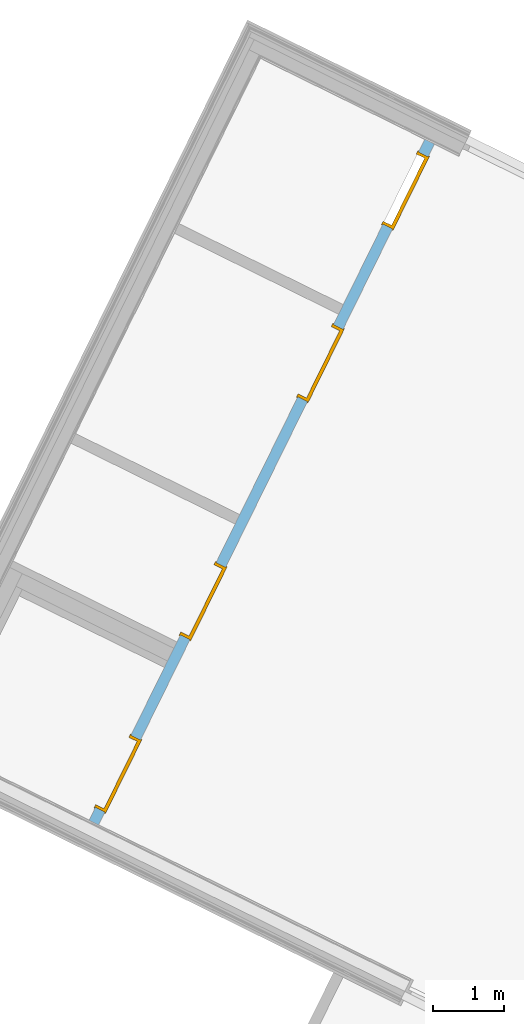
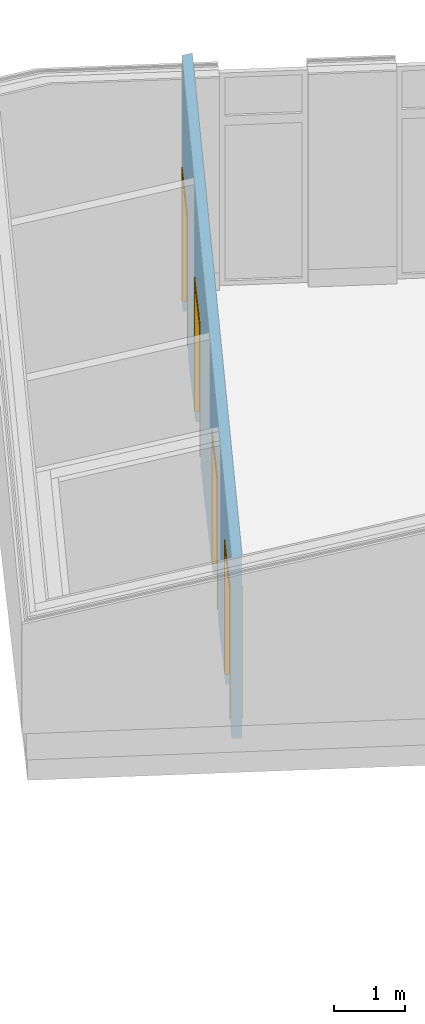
# One storey, part 17 of 23: 4 doors, 4 openings, plus 1 element that does not belong to this part.
"""IFC4 building model written with IfcOpenShell, lengths in metres."""

from ifc_helpers import new_model, entity, si_unit, converted_unit, derived_unit, frame, frame_2d, origin, origin_with_axes, place, context, subcontext, project, spatial, polyline, rectangle, outline, extrude, clip, halfspace, faceted_brep, source, transform, mapped, material, type_object, element, fill, save


model = new_model("IFC4")

# Units and contexts
model_context = context("Model", 3, precision=1e-05, world=origin())
body_context = subcontext(model_context, "Body", "Model", "MODEL_VIEW")
ifc_project = project(units=[si_unit("LENGTHUNIT", "METRE"), si_unit("AREAUNIT", "SQUARE_METRE"), si_unit("VOLUMEUNIT", "CUBIC_METRE"), si_unit("MASSUNIT", "GRAM", prefix="KILO"), converted_unit("PLANEANGLEUNIT", "DEGREE", entity("IfcPlaneAngleMeasure", 0.0174532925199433), si_unit("PLANEANGLEUNIT", "RADIAN"), dimensions=[0, 0, 0, 0, 0, 0, 0]), derived_unit("THERMALTRANSMITTANCEUNIT", [(si_unit("POWERUNIT", "WATT"), 1), (si_unit("THERMODYNAMICTEMPERATUREUNIT", "KELVIN"), -1), (si_unit("LENGTHUNIT", "METRE"), -2)]), derived_unit("VOLUMETRICFLOWRATEUNIT", [(si_unit("LENGTHUNIT", "METRE"), 3), (converted_unit("TIMEUNIT", "hour", entity("IfcTimeMeasure", 3600.0), si_unit("TIMEUNIT", "SECOND"), dimensions=[0, 0, 1, 0, 0, 0, 0]), -1), (si_unit("LENGTHUNIT", "METRE"), -1)])], contexts=[model_context])

# Site, building, storey
site_placement = place(None, origin())
site = spatial("IfcSite", under=ifc_project, at=site_placement, Name="Psychiatrie Neubau Wunstorf", CompositionType="ELEMENT")
building_placement = place(site_placement, origin())
building = spatial("IfcBuilding", under=site, at=building_placement, Name="Neubau H1 Sozialzentrum", CompositionType="ELEMENT")
storey_placement = place(building_placement, frame((0.0, 0.0, 0.7)))
storey = spatial("IfcBuildingStorey", under=building, at=storey_placement, Name="H1 Ebene 0", CompositionType="ELEMENT", Elevation=0.7)

# Wall, openings, doors
ifc_material_1 = material(Name="WI-LB")
wall_placement = place(storey_placement, frame((-23.9635187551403, 30.5655565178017, -0.2), z_axis=(0.0, 0.0, 1.0), x_axis=(0.44222268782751, 0.896905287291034, 0.0)))
wall = element("IfcWall", 1, at=wall_placement, inside=storey, material=ifc_material_1, context=body_context, shape_type="Clipping", body=[
    clip(extrude(rectangle(XDim=10.6918526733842, YDim=0.149967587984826, at=frame_2d((5.34592633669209, 0.074983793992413), x_axis=(1.0, 0.0))), origin_with_axes(), (0.0, 0.0, 1.0), 4.29485537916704), halfspace(frame((5.34592633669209, 0.0749837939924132, 3.69632046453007), z_axis=(0.105378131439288, -0.222899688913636, -0.96912908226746), x_axis=(0.994140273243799, 0.0, 0.108097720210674)), True)),
])
opening_1_placement = place(wall_placement, frame((10.4918526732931, 0.149967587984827, 0.0), z_axis=(-1.21292169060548e-14, -1.0, 0.0), x_axis=(0.0, 0.0, 1.0)))
opening_1 = element("IfcOpeningElement", 2, at=opening_1_placement, cuts=wall, Name="Türöffnung", ObjectType="Opening", context=body_context, shape_type="SweptSolid", body=[
    extrude(outline(polyline([(2.46, 1.135), (2.46, 0.0), (0.0, 0.0), (0.0, 1.135), (2.46, 1.135)])), origin_with_axes(), (0.0, 0.0, 1.0), 0.149967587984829),
])
opening_2_placement = place(wall_placement, frame((0.199999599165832, 0.0, 0.0), z_axis=(2.46374718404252e-15, 1.0, 0.0), x_axis=(0.0, 0.0, 1.0)))
opening_2 = element("IfcOpeningElement", 3, at=opening_2_placement, cuts=wall, Name="Türöffnung", ObjectType="Opening", context=body_context, shape_type="SweptSolid", body=[
    extrude(outline(polyline([(2.46, 1.135), (2.46, 0.0), (0.0, 0.0), (0.0, 1.135), (2.46, 1.135)])), origin_with_axes(), (0.0, 0.0, 1.0), 0.149967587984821),
])
opening_3_placement = place(wall_placement, frame((7.78245267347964, 0.149967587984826, 0.0), z_axis=(-1.21292169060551e-14, -1.0, 0.0), x_axis=(0.0, 0.0, 1.0)))
opening_3 = element("IfcOpeningElement", 4, at=opening_3_placement, cuts=wall, Name="Türöffnung", ObjectType="Opening", context=body_context, shape_type="SweptSolid", body=[
    extrude(outline(polyline([(2.46, 1.13500110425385), (2.46, 0.0), (0.0, 0.0), (0.0, 1.13500110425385), (2.46, 1.13500110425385)])), origin_with_axes(), (0.0, 0.0, 1.0), 0.149967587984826),
])
opening_4_placement = place(wall_placement, frame((4.04439945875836, 0.149967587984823, 0.0), z_axis=(1.81938253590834e-14, -1.0, 0.0), x_axis=(0.0, 0.0, 1.0)))
opening_4 = element("IfcOpeningElement", 5, at=opening_4_placement, cuts=wall, Name="Türöffnung", ObjectType="Opening", context=body_context, shape_type="SweptSolid", body=[
    extrude(outline(polyline([(2.46, 1.13500030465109), (2.46, 0.0), (0.0, 0.0), (0.0, 1.13500030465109), (2.46, 1.13500030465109)])), origin_with_axes(), (0.0, 0.0, 1.0), 0.14996758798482),
])
ifc_material_2 = material(Name="TI-1F-UZ-ZK")
door_type_1 = type_object("IfcDoorType", Name="SMT", OperationType="SINGLE_SWING_RIGHT", ParameterTakesPrecedence=False, PredefinedType="DOOR")
shared_shape_1 = source(origin_with_axes(), body_context, "Body", "Brep", [
    faceted_brep([(0.0, -0.0150403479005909, 2.46), (0.0400000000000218, -0.0150403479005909, 2.46), (0.0400000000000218, -0.0150403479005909, 0.2), (0.0, -0.0150403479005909, 0.2), (0.0, 0.164967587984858, 0.2), (0.0400000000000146, 0.164967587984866, 0.2), (0.0400000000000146, 0.164967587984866, 2.46), (0.0, 0.164967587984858, 2.46)], [[[0, 1, 2, 3]], [[4, 5, 6, 7]], [[3, 4, 7, 0]], [[2, 5, 4, 3]], [[1, 6, 5, 2]], [[0, 7, 6, 1]]], orient=[[False], [False], [False], [False], [False], [False]]),
    faceted_brep([(0.0, -0.0150403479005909, 2.475), (0.0, -0.0150403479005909, 0.2), (-0.0149999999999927, -0.0150403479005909, 0.2), (-0.0149999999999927, -0.0150403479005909, 2.475), (0.0, -4.03479005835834e-05, 0.2), (0.0, -4.03479005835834e-05, 2.475), (-0.0149999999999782, -4.03479005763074e-05, 2.475), (-0.0149999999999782, -4.03479005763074e-05, 0.2)], [[[0, 1, 2, 3]], [[4, 5, 6, 7]], [[1, 0, 5, 4]], [[2, 1, 4, 7]], [[3, 2, 7, 6]], [[0, 3, 6, 5]]], orient=[[False], [False], [False], [False], [False], [False]]),
    faceted_brep([(0.0, 0.149967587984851, 2.475), (0.0, 0.149967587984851, 0.2), (-0.0149999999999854, 0.149967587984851, 0.2), (-0.0149999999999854, 0.149967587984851, 2.475), (0.0, 0.164967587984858, 0.2), (0.0, 0.164967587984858, 2.475), (-0.0149999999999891, 0.164967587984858, 2.475), (-0.0149999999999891, 0.164967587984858, 0.2)], [[[0, 1, 2, 3]], [[4, 5, 6, 7]], [[1, 0, 5, 4]], [[2, 1, 4, 7]], [[3, 2, 7, 6]], [[0, 3, 6, 5]]], orient=[[False], [False], [False], [False], [False], [False]]),
    faceted_brep([(1.09499999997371, -0.0150403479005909, 2.46), (1.13499999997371, -0.0150403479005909, 2.46), (1.13499999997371, -0.0150403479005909, 0.2), (1.09499999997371, -0.0150403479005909, 0.2), (1.0949999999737, 0.164967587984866, 0.2), (1.1349999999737, 0.164967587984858, 0.2), (1.1349999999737, 0.164967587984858, 2.46), (1.0949999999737, 0.164967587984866, 2.46)], [[[0, 1, 2, 3]], [[4, 5, 6, 7]], [[3, 4, 7, 0]], [[2, 5, 4, 3]], [[1, 6, 5, 2]], [[0, 7, 6, 1]]], orient=[[False], [False], [False], [False], [False], [False]]),
    faceted_brep([(1.13499999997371, -0.0150403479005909, 2.475), (1.14999999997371, -0.0150403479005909, 2.475), (1.14999999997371, -0.0150403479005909, 0.2), (1.13499999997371, -0.0150403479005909, 0.2), (1.13499999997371, -4.03479005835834e-05, 0.2), (1.1499999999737, -4.03479005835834e-05, 0.2), (1.1499999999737, -4.03479005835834e-05, 2.475), (1.13499999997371, -4.03479005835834e-05, 2.475)], [[[0, 1, 2, 3]], [[4, 5, 6, 7]], [[3, 4, 7, 0]], [[2, 5, 4, 3]], [[1, 6, 5, 2]], [[0, 7, 6, 1]]], orient=[[False], [False], [False], [False], [False], [False]]),
    faceted_brep([(1.1349999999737, 0.149967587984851, 2.475), (1.1499999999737, 0.149967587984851, 2.475), (1.1499999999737, 0.149967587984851, 0.2), (1.1349999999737, 0.149967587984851, 0.2), (1.1349999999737, 0.164967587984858, 0.2), (1.14999999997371, 0.164967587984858, 0.2), (1.14999999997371, 0.164967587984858, 2.475), (1.1349999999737, 0.164967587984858, 2.475)], [[[0, 1, 2, 3]], [[4, 5, 6, 7]], [[3, 4, 7, 0]], [[2, 5, 4, 3]], [[1, 6, 5, 2]], [[0, 7, 6, 1]]], orient=[[False], [False], [False], [False], [False], [False]]),
    faceted_brep([(0.0400000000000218, -0.0150403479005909, 2.46), (1.09499999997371, -0.0150403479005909, 2.46), (1.09499999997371, -0.0150403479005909, 2.42), (0.0400000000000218, -0.0150403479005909, 2.42), (0.0400000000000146, 0.164967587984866, 2.42), (1.0949999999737, 0.164967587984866, 2.42), (1.0949999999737, 0.164967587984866, 2.46), (0.0400000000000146, 0.164967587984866, 2.46)], [[[0, 1, 2, 3]], [[4, 5, 6, 7]], [[3, 4, 7, 0]], [[2, 5, 4, 3]], [[1, 6, 5, 2]], [[0, 7, 6, 1]]], orient=[[False], [False], [False], [False], [False], [False]]),
    faceted_brep([(0.0, -0.0150403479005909, 2.475), (1.13499999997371, -0.0150403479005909, 2.475), (1.13499999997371, -0.0150403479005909, 2.46), (0.0, -0.0150403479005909, 2.46), (0.0, -4.03479005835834e-05, 2.46), (1.13499999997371, -4.03479005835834e-05, 2.46), (1.13499999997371, -4.03479005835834e-05, 2.475), (0.0, -4.03479005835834e-05, 2.475)], [[[0, 1, 2, 3]], [[4, 5, 6, 7]], [[3, 4, 7, 0]], [[2, 5, 4, 3]], [[1, 6, 5, 2]], [[0, 7, 6, 1]]], orient=[[False], [False], [False], [False], [False], [False]]),
    faceted_brep([(0.0, 0.149967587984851, 2.475), (1.1349999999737, 0.149967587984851, 2.475), (1.1349999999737, 0.149967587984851, 2.46), (0.0, 0.149967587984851, 2.46), (0.0, 0.164967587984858, 2.46), (1.1349999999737, 0.164967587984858, 2.46), (1.1349999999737, 0.164967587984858, 2.475), (0.0, 0.164967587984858, 2.475)], [[[0, 1, 2, 3]], [[4, 5, 6, 7]], [[3, 4, 7, 0]], [[2, 5, 4, 3]], [[1, 6, 5, 2]], [[0, 7, 6, 1]]], orient=[[False], [False], [False], [False], [False], [False]]),
    faceted_brep([(0.0250000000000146, 0.115967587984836, 2.435), (1.1099999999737, 0.115967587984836, 2.435), (1.1099999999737, 0.115967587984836, 0.2), (0.0250000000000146, 0.115967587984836, 0.2), (0.0250000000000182, 0.165967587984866, 0.2), (1.10999999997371, 0.165967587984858, 0.2), (1.10999999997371, 0.165967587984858, 2.435), (0.0250000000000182, 0.165967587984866, 2.435)], [[[0, 1, 2, 3]], [[4, 5, 6, 7]], [[3, 4, 7, 0]], [[2, 5, 4, 3]], [[1, 6, 5, 2]], [[0, 7, 6, 1]]], orient=[[False], [False], [False], [False], [False], [False]]),
])
door_1_placement = place(opening_1_placement, frame((0.0, 0.0, 0.0), z_axis=(1.0, 0.0, 0.0), x_axis=(0.0, 1.0, 1.36557432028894e-14)))
door_1 = element("IfcDoor", 6, at=door_1_placement, inside=storey, type_object=door_type_1, material=ifc_material_2, Name="SMT", OverallHeight=2.46, OverallWidth=1.135, context=body_context, shape_type="MappedRepresentation", body=[
    mapped(shared_shape_1, transform((0.0, 0.0, 0.0), x_axis=(1.0, 0.0, 0.0), y_axis=(0.0, 1.0, 0.0), z_axis=(0.0, 0.0, 1.0), scale=1.0)),
])
fill(opening_1, door_1)
ifc_material_3 = material(Name="TI-1F-UZ-ZK")
door_type_2 = type_object("IfcDoorType", Name="SMT", OperationType="SINGLE_SWING_RIGHT", ParameterTakesPrecedence=False, PredefinedType="DOOR")
shared_shape_2 = source(origin_with_axes(), body_context, "Body", "Brep", [
    faceted_brep([(1.13499999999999, -0.0150324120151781, 2.46), (1.13499999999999, -0.0150324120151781, 0.2), (1.09499999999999, -0.0150324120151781, 0.2), (1.09499999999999, -0.0150324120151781, 2.46), (1.13499999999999, 0.164967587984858, 0.2), (1.13499999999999, 0.164967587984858, 2.46), (1.09499999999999, 0.164967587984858, 2.46), (1.09499999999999, 0.164967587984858, 0.2)], [[[0, 1, 2, 3]], [[4, 5, 6, 7]], [[1, 0, 5, 4]], [[2, 1, 4, 7]], [[3, 2, 7, 6]], [[0, 3, 6, 5]]], orient=[[False], [False], [False], [False], [False], [False]]),
    faceted_brep([(1.13499999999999, -0.0150324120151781, 2.475), (1.14999999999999, -0.0150324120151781, 2.475), (1.14999999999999, -0.0150324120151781, 0.2), (1.13499999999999, -0.0150324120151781, 0.2), (1.13499999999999, -3.24120151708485e-05, 0.2), (1.14999999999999, -3.24120151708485e-05, 0.2), (1.14999999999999, -3.24120151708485e-05, 2.475), (1.13499999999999, -3.24120151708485e-05, 2.475)], [[[0, 1, 2, 3]], [[4, 5, 6, 7]], [[3, 4, 7, 0]], [[2, 5, 4, 3]], [[1, 6, 5, 2]], [[0, 7, 6, 1]]], orient=[[False], [False], [False], [False], [False], [False]]),
    faceted_brep([(1.13499999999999, 0.149967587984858, 2.475), (1.14999999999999, 0.149967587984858, 2.475), (1.14999999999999, 0.149967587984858, 0.2), (1.13499999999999, 0.149967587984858, 0.2), (1.13499999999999, 0.164967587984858, 0.2), (1.14999999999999, 0.164967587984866, 0.2), (1.14999999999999, 0.164967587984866, 2.475), (1.13499999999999, 0.164967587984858, 2.475)], [[[0, 1, 2, 3]], [[4, 5, 6, 7]], [[3, 4, 7, 0]], [[2, 5, 4, 3]], [[1, 6, 5, 2]], [[0, 7, 6, 1]]], orient=[[False], [False], [False], [False], [False], [False]]),
    faceted_brep([(0.0399999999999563, -0.0150324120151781, 2.46), (0.0399999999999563, -0.0150324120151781, 0.2), (0.0, -0.0150324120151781, 0.2), (0.0, -0.0150324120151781, 2.46), (0.03999999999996, 0.164967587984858, 0.2), (0.03999999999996, 0.164967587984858, 2.46), (0.0, 0.164967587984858, 2.46), (0.0, 0.164967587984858, 0.2)], [[[0, 1, 2, 3]], [[4, 5, 6, 7]], [[1, 0, 5, 4]], [[2, 1, 4, 7]], [[3, 2, 7, 6]], [[0, 3, 6, 5]]], orient=[[False], [False], [False], [False], [False], [False]]),
    faceted_brep([(0.0, -0.0150324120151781, 2.475), (0.0, -0.0150324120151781, 0.2), (-0.0150000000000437, -0.0150324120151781, 0.2), (-0.0150000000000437, -0.0150324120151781, 2.475), (0.0, -3.24120151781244e-05, 0.2), (0.0, -3.24120151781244e-05, 2.475), (-0.01500000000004, -3.24120151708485e-05, 2.475), (-0.01500000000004, -3.24120151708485e-05, 0.2)], [[[0, 1, 2, 3]], [[4, 5, 6, 7]], [[1, 0, 5, 4]], [[2, 1, 4, 7]], [[3, 2, 7, 6]], [[0, 3, 6, 5]]], orient=[[False], [False], [False], [False], [False], [False]]),
    faceted_brep([(0.0, 0.149967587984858, 2.475), (0.0, 0.149967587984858, 0.2), (-0.0150000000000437, 0.149967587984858, 0.2), (-0.0150000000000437, 0.149967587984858, 2.475), (0.0, 0.164967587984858, 0.2), (0.0, 0.164967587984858, 2.475), (-0.0150000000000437, 0.164967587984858, 2.475), (-0.0150000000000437, 0.164967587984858, 0.2)], [[[0, 1, 2, 3]], [[4, 5, 6, 7]], [[1, 0, 5, 4]], [[2, 1, 4, 7]], [[3, 2, 7, 6]], [[0, 3, 6, 5]]], orient=[[False], [False], [False], [False], [False], [False]]),
    faceted_brep([(1.09499999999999, -0.0150324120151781, 2.46), (1.09499999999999, -0.0150324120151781, 2.42), (0.0399999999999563, -0.0150324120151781, 2.42), (0.0399999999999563, -0.0150324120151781, 2.46), (1.09499999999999, 0.164967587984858, 2.42), (1.09499999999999, 0.164967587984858, 2.46), (0.03999999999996, 0.164967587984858, 2.46), (0.03999999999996, 0.164967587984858, 2.42)], [[[0, 1, 2, 3]], [[4, 5, 6, 7]], [[1, 0, 5, 4]], [[2, 1, 4, 7]], [[3, 2, 7, 6]], [[0, 3, 6, 5]]], orient=[[False], [False], [False], [False], [False], [False]]),
    faceted_brep([(1.13499999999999, -0.0150324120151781, 2.475), (1.13499999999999, -0.0150324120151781, 2.46), (0.0, -0.0150324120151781, 2.46), (0.0, -0.0150324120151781, 2.475), (1.13499999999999, -3.24120151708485e-05, 2.46), (1.13499999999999, -3.24120151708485e-05, 2.475), (0.0, -3.24120151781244e-05, 2.475), (0.0, -3.24120151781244e-05, 2.46)], [[[0, 1, 2, 3]], [[4, 5, 6, 7]], [[1, 0, 5, 4]], [[2, 1, 4, 7]], [[3, 2, 7, 6]], [[0, 3, 6, 5]]], orient=[[False], [False], [False], [False], [False], [False]]),
    faceted_brep([(1.13499999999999, 0.149967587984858, 2.475), (1.13499999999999, 0.149967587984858, 2.46), (0.0, 0.149967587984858, 2.46), (0.0, 0.149967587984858, 2.475), (1.13499999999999, 0.164967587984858, 2.46), (1.13499999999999, 0.164967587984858, 2.475), (0.0, 0.164967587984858, 2.475), (0.0, 0.164967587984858, 2.46)], [[[0, 1, 2, 3]], [[4, 5, 6, 7]], [[1, 0, 5, 4]], [[2, 1, 4, 7]], [[3, 2, 7, 6]], [[0, 3, 6, 5]]], orient=[[False], [False], [False], [False], [False], [False]]),
    faceted_brep([(1.10999999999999, 0.115967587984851, 2.435), (1.10999999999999, 0.115967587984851, 0.2), (0.0249999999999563, 0.115967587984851, 0.2), (0.0249999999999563, 0.115967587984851, 2.435), (1.10999999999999, 0.165967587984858, 0.2), (1.10999999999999, 0.165967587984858, 2.435), (0.0249999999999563, 0.165967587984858, 2.435), (0.0249999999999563, 0.165967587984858, 0.2)], [[[0, 1, 2, 3]], [[4, 5, 6, 7]], [[1, 0, 5, 4]], [[2, 1, 4, 7]], [[3, 2, 7, 6]], [[0, 3, 6, 5]]], orient=[[False], [False], [False], [False], [False], [False]]),
])
door_2_placement = place(opening_2_placement, frame((0.0, 1.135, 0.149967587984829), z_axis=(1.0, 0.0, 0.0), x_axis=(0.0, -1.0, -1.11022302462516e-15)))
door_2 = element("IfcDoor", 7, at=door_2_placement, inside=storey, type_object=door_type_2, material=ifc_material_3, Name="SMT", OverallHeight=2.46, OverallWidth=1.135, context=body_context, shape_type="MappedRepresentation", body=[
    mapped(shared_shape_2, transform((0.0, 0.0, 0.0), x_axis=(1.0, 0.0, 0.0), y_axis=(0.0, 1.0, 0.0), z_axis=(0.0, 0.0, 1.0), scale=1.0)),
])
fill(opening_2, door_2)
ifc_material_4 = material(Name="TI-1F-UZ-ZK")
door_type_3 = type_object("IfcDoorType", Name="SMT", OperationType="SINGLE_SWING_RIGHT", ParameterTakesPrecedence=False, PredefinedType="DOOR")
shared_shape_3 = source(origin_with_axes(), body_context, "Body", "Brep", [
    faceted_brep([(0.0, -0.0150403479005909, 2.46), (0.0400000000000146, -0.0150403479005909, 2.46), (0.0400000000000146, -0.0150403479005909, 0.2), (0.0, -0.0150403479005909, 0.2), (0.0, 0.164967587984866, 0.2), (0.0400000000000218, 0.164967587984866, 0.2), (0.0400000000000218, 0.164967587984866, 2.46), (0.0, 0.164967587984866, 2.46)], [[[0, 1, 2, 3]], [[4, 5, 6, 7]], [[3, 4, 7, 0]], [[2, 5, 4, 3]], [[1, 6, 5, 2]], [[0, 7, 6, 1]]], orient=[[False], [False], [False], [False], [False], [False]]),
    faceted_brep([(0.0, -0.0150403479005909, 2.475), (0.0, -0.0150403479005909, 0.2), (-0.0149999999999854, -0.0150403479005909, 0.2), (-0.0149999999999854, -0.0150403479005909, 2.475), (0.0, -4.03479005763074e-05, 0.2), (0.0, -4.03479005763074e-05, 2.475), (-0.0149999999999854, -4.03479005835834e-05, 2.475), (-0.0149999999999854, -4.03479005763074e-05, 0.2)], [[[0, 1, 2, 3]], [[4, 5, 6, 7]], [[1, 0, 5, 4]], [[2, 1, 4, 7]], [[3, 2, 7, 6]], [[0, 3, 6, 5]]], orient=[[False], [False], [False], [False], [False], [False]]),
    faceted_brep([(0.0, 0.149967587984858, 2.475), (0.0, 0.149967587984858, 0.2), (-0.0149999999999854, 0.149967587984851, 0.2), (-0.0149999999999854, 0.149967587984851, 2.475), (0.0, 0.164967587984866, 0.2), (0.0, 0.164967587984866, 2.475), (-0.0149999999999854, 0.164967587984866, 2.475), (-0.0149999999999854, 0.164967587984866, 0.2)], [[[0, 1, 2, 3]], [[4, 5, 6, 7]], [[1, 0, 5, 4]], [[2, 1, 4, 7]], [[3, 2, 7, 6]], [[0, 3, 6, 5]]], orient=[[False], [False], [False], [False], [False], [False]]),
    faceted_brep([(1.0949999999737, -0.0150403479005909, 2.46), (1.13499999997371, -0.0150403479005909, 2.46), (1.13499999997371, -0.0150403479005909, 0.2), (1.0949999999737, -0.0150403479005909, 0.2), (1.0949999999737, 0.164967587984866, 0.2), (1.13499999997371, 0.164967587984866, 0.2), (1.13499999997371, 0.164967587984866, 2.46), (1.0949999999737, 0.164967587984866, 2.46)], [[[0, 1, 2, 3]], [[4, 5, 6, 7]], [[3, 4, 7, 0]], [[2, 5, 4, 3]], [[1, 6, 5, 2]], [[0, 7, 6, 1]]], orient=[[False], [False], [False], [False], [False], [False]]),
    faceted_brep([(1.13499999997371, -0.0150403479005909, 2.475), (1.1499999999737, -0.0150403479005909, 2.475), (1.1499999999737, -0.0150403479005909, 0.2), (1.13499999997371, -0.0150403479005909, 0.2), (1.1349999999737, -4.03479005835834e-05, 0.2), (1.1499999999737, -4.03479005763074e-05, 0.2), (1.1499999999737, -4.03479005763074e-05, 2.475), (1.1349999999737, -4.03479005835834e-05, 2.475)], [[[0, 1, 2, 3]], [[4, 5, 6, 7]], [[3, 4, 7, 0]], [[2, 5, 4, 3]], [[1, 6, 5, 2]], [[0, 7, 6, 1]]], orient=[[False], [False], [False], [False], [False], [False]]),
    faceted_brep([(1.13499999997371, 0.149967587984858, 2.475), (1.1499999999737, 0.149967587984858, 2.475), (1.1499999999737, 0.149967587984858, 0.2), (1.13499999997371, 0.149967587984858, 0.2), (1.13499999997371, 0.164967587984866, 0.2), (1.14999999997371, 0.164967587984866, 0.2), (1.14999999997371, 0.164967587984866, 2.475), (1.13499999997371, 0.164967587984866, 2.475)], [[[0, 1, 2, 3]], [[4, 5, 6, 7]], [[3, 4, 7, 0]], [[2, 5, 4, 3]], [[1, 6, 5, 2]], [[0, 7, 6, 1]]], orient=[[False], [False], [False], [False], [False], [False]]),
    faceted_brep([(0.0400000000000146, -0.0150403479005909, 2.46), (1.0949999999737, -0.0150403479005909, 2.46), (1.0949999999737, -0.0150403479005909, 2.42), (0.0400000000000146, -0.0150403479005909, 2.42), (0.0400000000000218, 0.164967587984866, 2.42), (1.0949999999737, 0.164967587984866, 2.42), (1.0949999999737, 0.164967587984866, 2.46), (0.0400000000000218, 0.164967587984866, 2.46)], [[[0, 1, 2, 3]], [[4, 5, 6, 7]], [[3, 4, 7, 0]], [[2, 5, 4, 3]], [[1, 6, 5, 2]], [[0, 7, 6, 1]]], orient=[[False], [False], [False], [False], [False], [False]]),
    faceted_brep([(0.0, -0.0150403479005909, 2.475), (1.13499999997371, -0.0150403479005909, 2.475), (1.13499999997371, -0.0150403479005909, 2.46), (0.0, -0.0150403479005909, 2.46), (0.0, -4.03479005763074e-05, 2.46), (1.1349999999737, -4.03479005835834e-05, 2.46), (1.1349999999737, -4.03479005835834e-05, 2.475), (0.0, -4.03479005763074e-05, 2.475)], [[[0, 1, 2, 3]], [[4, 5, 6, 7]], [[3, 4, 7, 0]], [[2, 5, 4, 3]], [[1, 6, 5, 2]], [[0, 7, 6, 1]]], orient=[[False], [False], [False], [False], [False], [False]]),
    faceted_brep([(0.0, 0.149967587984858, 2.475), (1.13499999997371, 0.149967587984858, 2.475), (1.13499999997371, 0.149967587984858, 2.46), (0.0, 0.149967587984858, 2.46), (0.0, 0.164967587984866, 2.46), (1.13499999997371, 0.164967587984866, 2.46), (1.13499999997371, 0.164967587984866, 2.475), (0.0, 0.164967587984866, 2.475)], [[[0, 1, 2, 3]], [[4, 5, 6, 7]], [[3, 4, 7, 0]], [[2, 5, 4, 3]], [[1, 6, 5, 2]], [[0, 7, 6, 1]]], orient=[[False], [False], [False], [False], [False], [False]]),
    faceted_brep([(0.0250000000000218, 0.115967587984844, 2.435), (1.1099999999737, 0.115967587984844, 2.435), (1.1099999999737, 0.115967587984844, 0.2), (0.0250000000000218, 0.115967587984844, 0.2), (0.0250000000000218, 0.165967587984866, 0.2), (1.10999999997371, 0.165967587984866, 0.2), (1.10999999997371, 0.165967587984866, 2.435), (0.0250000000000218, 0.165967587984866, 2.435)], [[[0, 1, 2, 3]], [[4, 5, 6, 7]], [[3, 4, 7, 0]], [[2, 5, 4, 3]], [[1, 6, 5, 2]], [[0, 7, 6, 1]]], orient=[[False], [False], [False], [False], [False], [False]]),
])
door_3_placement = place(opening_3_placement, frame((0.0, 0.0, 0.0), z_axis=(1.0, 0.0, 0.0), x_axis=(0.0, 1.0, 1.20459198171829e-14)))
door_3 = element("IfcDoor", 8, at=door_3_placement, inside=storey, type_object=door_type_3, material=ifc_material_4, Name="SMT", OverallHeight=2.46, OverallWidth=1.135, context=body_context, shape_type="MappedRepresentation", body=[
    mapped(shared_shape_3, transform((0.0, 0.0, 0.0), x_axis=(1.0, 0.0, 0.0), y_axis=(0.0, 1.0, 0.0), z_axis=(0.0, 0.0, 1.0), scale=1.0)),
])
fill(opening_3, door_3)
ifc_material_5 = material(Name="TI-1F-UZ-ZK")
door_type_4 = type_object("IfcDoorType", Name="SMT", OperationType="SINGLE_SWING_RIGHT", ParameterTakesPrecedence=False, PredefinedType="DOOR")
shared_shape_4 = source(origin_with_axes(), body_context, "Body", "Brep", [
    faceted_brep([(1.13500030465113, -0.0150063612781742, 2.46), (1.13500030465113, -0.0150063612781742, 0.2), (1.09500030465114, -0.0150063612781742, 0.2), (1.09500030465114, -0.0150063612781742, 2.46), (1.13500030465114, 0.164967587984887, 0.2), (1.13500030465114, 0.164967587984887, 2.46), (1.09500030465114, 0.164967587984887, 2.46), (1.09500030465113, 0.164967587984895, 0.2)], [[[0, 1, 2, 3]], [[4, 5, 6, 7]], [[1, 0, 5, 4]], [[2, 1, 4, 7]], [[3, 2, 7, 6]], [[0, 3, 6, 5]]], orient=[[False], [False], [False], [False], [False], [False]]),
    faceted_brep([(1.13500030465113, -0.0150063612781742, 2.475), (1.15000030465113, -0.0150063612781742, 2.475), (1.15000030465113, -0.0150063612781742, 0.2), (1.13500030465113, -0.0150063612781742, 0.2), (1.13500030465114, -6.36127815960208e-06, 0.2), (1.15000030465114, -6.36127815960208e-06, 0.2), (1.15000030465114, -6.36127815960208e-06, 2.475), (1.13500030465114, -6.36127816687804e-06, 2.475)], [[[0, 1, 2, 3]], [[4, 5, 6, 7]], [[3, 4, 7, 0]], [[2, 5, 4, 3]], [[1, 6, 5, 2]], [[0, 7, 6, 1]]], orient=[[False], [False], [False], [False], [False], [False]]),
    faceted_brep([(1.13500030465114, 0.149967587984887, 2.475), (1.15000030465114, 0.149967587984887, 2.475), (1.15000030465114, 0.149967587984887, 0.2), (1.13500030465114, 0.149967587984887, 0.2), (1.13500030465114, 0.164967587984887, 0.2), (1.15000030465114, 0.164967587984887, 0.2), (1.15000030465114, 0.164967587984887, 2.475), (1.13500030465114, 0.164967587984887, 2.475)], [[[0, 1, 2, 3]], [[4, 5, 6, 7]], [[3, 4, 7, 0]], [[2, 5, 4, 3]], [[1, 6, 5, 2]], [[0, 7, 6, 1]]], orient=[[False], [False], [False], [False], [False], [False]]),
    faceted_brep([(0.0400003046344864, -0.0150063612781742, 2.46), (0.0400003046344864, -0.0150063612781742, 0.2), (3.04634486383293e-07, -0.0150063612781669, 0.2), (3.04634486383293e-07, -0.0150063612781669, 2.46), (0.0400003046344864, 0.164967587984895, 0.2), (0.04000030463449, 0.164967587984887, 2.46), (3.04634479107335e-07, 0.164967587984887, 2.46), (3.04634479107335e-07, 0.164967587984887, 0.2)], [[[0, 1, 2, 3]], [[4, 5, 6, 7]], [[1, 0, 5, 4]], [[2, 1, 4, 7]], [[3, 2, 7, 6]], [[0, 3, 6, 5]]], orient=[[False], [False], [False], [False], [False], [False]]),
    faceted_brep([(3.04634486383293e-07, -0.0150063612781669, 2.475), (3.04634486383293e-07, -0.0150063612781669, 0.2), (-0.0149996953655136, -0.0150063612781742, 0.2), (-0.0149996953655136, -0.0150063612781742, 2.475), (3.04634486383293e-07, -6.36127815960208e-06, 0.2), (3.04634486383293e-07, -6.36127815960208e-06, 2.475), (-0.0149996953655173, -6.36127816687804e-06, 2.475), (-0.0149996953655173, -6.36127816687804e-06, 0.2)], [[[0, 1, 2, 3]], [[4, 5, 6, 7]], [[1, 0, 5, 4]], [[2, 1, 4, 7]], [[3, 2, 7, 6]], [[0, 3, 6, 5]]], orient=[[False], [False], [False], [False], [False], [False]]),
    faceted_brep([(3.04634486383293e-07, 0.149967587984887, 2.475), (3.04634486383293e-07, 0.149967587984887, 0.2), (-0.0149996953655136, 0.14996758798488, 0.2), (-0.0149996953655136, 0.14996758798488, 2.475), (3.04634479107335e-07, 0.164967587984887, 0.2), (3.04634479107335e-07, 0.164967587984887, 2.475), (-0.0149996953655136, 0.164967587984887, 2.475), (-0.0149996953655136, 0.164967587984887, 0.2)], [[[0, 1, 2, 3]], [[4, 5, 6, 7]], [[1, 0, 5, 4]], [[2, 1, 4, 7]], [[3, 2, 7, 6]], [[0, 3, 6, 5]]], orient=[[False], [False], [False], [False], [False], [False]]),
    faceted_brep([(1.09500030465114, -0.0150063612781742, 2.46), (1.09500030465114, -0.0150063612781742, 2.42), (0.0400003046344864, -0.0150063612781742, 2.42), (0.0400003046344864, -0.0150063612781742, 2.46), (1.09500030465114, 0.164967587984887, 2.42), (1.09500030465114, 0.164967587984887, 2.46), (0.04000030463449, 0.164967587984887, 2.46), (0.04000030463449, 0.164967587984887, 2.42)], [[[0, 1, 2, 3]], [[4, 5, 6, 7]], [[1, 0, 5, 4]], [[2, 1, 4, 7]], [[3, 2, 7, 6]], [[0, 3, 6, 5]]], orient=[[False], [False], [False], [False], [False], [False]]),
    faceted_brep([(1.13500030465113, -0.0150063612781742, 2.475), (1.13500030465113, -0.0150063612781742, 2.46), (3.04634486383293e-07, -0.0150063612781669, 2.46), (3.04634486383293e-07, -0.0150063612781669, 2.475), (1.13500030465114, -6.36127816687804e-06, 2.46), (1.13500030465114, -6.36127816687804e-06, 2.475), (3.04634486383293e-07, -6.36127815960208e-06, 2.475), (3.04634486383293e-07, -6.36127815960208e-06, 2.46)], [[[0, 1, 2, 3]], [[4, 5, 6, 7]], [[1, 0, 5, 4]], [[2, 1, 4, 7]], [[3, 2, 7, 6]], [[0, 3, 6, 5]]], orient=[[False], [False], [False], [False], [False], [False]]),
    faceted_brep([(1.13500030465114, 0.149967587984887, 2.475), (1.13500030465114, 0.149967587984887, 2.46), (3.04634486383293e-07, 0.149967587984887, 2.46), (3.04634486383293e-07, 0.149967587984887, 2.475), (1.13500030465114, 0.164967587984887, 2.46), (1.13500030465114, 0.164967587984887, 2.475), (3.04634479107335e-07, 0.164967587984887, 2.475), (3.04634479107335e-07, 0.164967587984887, 2.46)], [[[0, 1, 2, 3]], [[4, 5, 6, 7]], [[1, 0, 5, 4]], [[2, 1, 4, 7]], [[3, 2, 7, 6]], [[0, 3, 6, 5]]], orient=[[False], [False], [False], [False], [False], [False]]),
    faceted_brep([(1.11000030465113, 0.115967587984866, 2.435), (1.11000030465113, 0.115967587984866, 0.2), (0.02500030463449, 0.115967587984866, 0.2), (0.02500030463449, 0.115967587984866, 2.435), (1.11000030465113, 0.165967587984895, 0.2), (1.11000030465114, 0.165967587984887, 2.435), (0.0250003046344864, 0.165967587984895, 2.435), (0.0250003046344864, 0.165967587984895, 0.2)], [[[0, 1, 2, 3]], [[4, 5, 6, 7]], [[1, 0, 5, 4]], [[2, 1, 4, 7]], [[3, 2, 7, 6]], [[0, 3, 6, 5]]], orient=[[False], [False], [False], [False], [False], [False]]),
])
door_4_placement = place(opening_4_placement, frame((0.0, 0.0, 0.0), z_axis=(1.0, 0.0, 0.0), x_axis=(0.0, 1.0, -1.67643676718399e-14)))
door_4 = element("IfcDoor", 9, at=door_4_placement, inside=storey, type_object=door_type_4, material=ifc_material_5, Name="SMT", OverallHeight=2.46, OverallWidth=1.135, context=body_context, shape_type="MappedRepresentation", body=[
    mapped(shared_shape_4, transform((0.0, 0.0, 0.0), x_axis=(1.0, 0.0, 0.0), y_axis=(0.0, 1.0, 0.0), z_axis=(0.0, 0.0, 1.0), scale=1.0)),
])
fill(opening_4, door_4)

save(model, "model.ifc")
